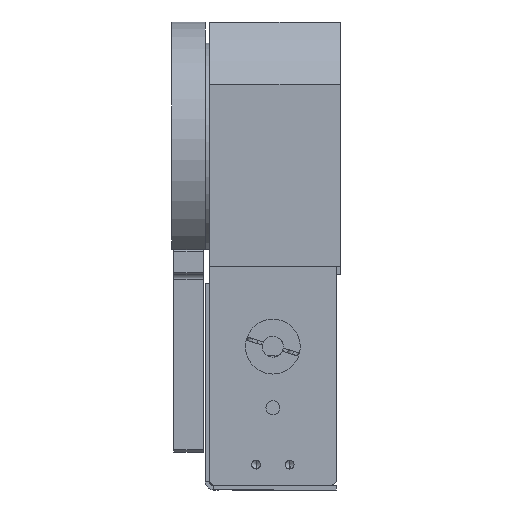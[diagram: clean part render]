
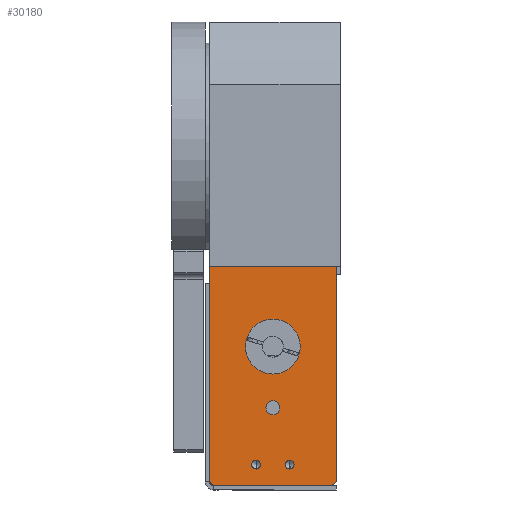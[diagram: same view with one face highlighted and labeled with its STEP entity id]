
A CAD part, left-side view. The second image highlights one B-rep face of the part: STEP entity #30180.
In plain terms, the highlighted planar face has unit normal (-1, 0, 0).
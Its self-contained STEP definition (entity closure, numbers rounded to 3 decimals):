
#99 = EDGE_CURVE ( 'NONE', #30562, #12137, #30193, .T. ) ;
#1097 = CARTESIAN_POINT ( 'NONE',  ( -40.848, 17.607, -80. ) ) ;
#1559 = CARTESIAN_POINT ( 'NONE',  ( -40.848, 3.607, -47. ) ) ;
#1664 = VECTOR ( 'NONE', #13310, 1000. ) ;
#2068 = VECTOR ( 'NONE', #11336, 1000. ) ;
#2203 = EDGE_CURVE ( 'NONE', #25479, #8233, #17320, .T. ) ;
#2484 = ORIENTED_EDGE ( 'NONE', *, *, #22748, .F. ) ;
#2626 = CARTESIAN_POINT ( 'NONE',  ( -40.848, 18.607, -79. ) ) ;
#3204 = CIRCLE ( 'NONE', #32817, 1.65 ) ;
#3315 = ORIENTED_EDGE ( 'NONE', *, *, #22793, .T. ) ;
#3342 = EDGE_CURVE ( 'NONE', #9764, #10073, #19787, .T. ) ;
#3397 = CIRCLE ( 'NONE', #16282, 6.5 ) ;
#4313 = DIRECTION ( 'NONE',  ( 0., 0., -1. ) ) ;
#4540 = DIRECTION ( 'NONE',  ( 0., -1., 0. ) ) ;
#5586 = CARTESIAN_POINT ( 'NONE',  ( -40.848, -10.393, -80. ) ) ;
#6243 = DIRECTION ( 'NONE',  ( 0., 1., 0. ) ) ;
#7108 = DIRECTION ( 'NONE',  ( 1., 0., 0. ) ) ;
#7303 = DIRECTION ( 'NONE',  ( 0., 0., -1. ) ) ;
#7694 = CARTESIAN_POINT ( 'NONE',  ( -40.848, -10.393, -80. ) ) ;
#7984 = DIRECTION ( 'NONE',  ( 1., 0., 0. ) ) ;
#8233 = VERTEX_POINT ( 'NONE', #29071 ) ;
#9571 = ORIENTED_EDGE ( 'NONE', *, *, #99, .T. ) ;
#9764 = VERTEX_POINT ( 'NONE', #7694 ) ;
#9799 = VERTEX_POINT ( 'NONE', #18981 ) ;
#9837 = CARTESIAN_POINT ( 'NONE',  ( -40.848, -11.393, -28. ) ) ;
#9858 = CIRCLE ( 'NONE', #33446, 1.65 ) ;
#10073 = VERTEX_POINT ( 'NONE', #1097 ) ;
#10269 = CARTESIAN_POINT ( 'NONE',  ( -40.848, -0.393, -76.025 ) ) ;
#10680 = FACE_OUTER_BOUND ( 'NONE', #12937, .T. ) ;
#10715 = ORIENTED_EDGE ( 'NONE', *, *, #3342, .F. ) ;
#10747 = VECTOR ( 'NONE', #17567, 1000. ) ;
#11077 = VECTOR ( 'NONE', #16513, 1000. ) ;
#11336 = DIRECTION ( 'NONE',  ( 0., -0.707, 0.707 ) ) ;
#11484 = AXIS2_PLACEMENT_3D ( 'NONE', #34886, #26519, #16283 ) ;
#11605 = CARTESIAN_POINT ( 'NONE',  ( -40.848, 7.607, -75. ) ) ;
#12087 = DIRECTION ( 'NONE',  ( 1., 0., 0. ) ) ;
#12137 = VERTEX_POINT ( 'NONE', #10269 ) ;
#12937 = EDGE_LOOP ( 'NONE', ( #10715, #3315, #2484, #15427, #22922, #22836 ) ) ;
#13300 = CARTESIAN_POINT ( 'NONE',  ( -40.848, 3.607, -61.5 ) ) ;
#13310 = DIRECTION ( 'NONE',  ( 0., -0.707, -0.707 ) ) ;
#13575 = CARTESIAN_POINT ( 'NONE',  ( -40.848, -11.393, -28. ) ) ;
#13678 = FACE_BOUND ( 'NONE', #30071, .T. ) ;
#13844 = CIRCLE ( 'NONE', #30550, 1.025 ) ;
#14367 = CARTESIAN_POINT ( 'NONE',  ( -40.848, -11.393, -79. ) ) ;
#14910 = EDGE_CURVE ( 'NONE', #8233, #25479, #19122, .T. ) ;
#15427 = ORIENTED_EDGE ( 'NONE', *, *, #31559, .F. ) ;
#16265 = ORIENTED_EDGE ( 'NONE', *, *, #29474, .T. ) ;
#16282 = AXIS2_PLACEMENT_3D ( 'NONE', #1559, #34441, #4313 ) ;
#16283 = DIRECTION ( 'NONE',  ( 0., 0., -1. ) ) ;
#16513 = DIRECTION ( 'NONE',  ( 0., 0., -1. ) ) ;
#16755 = VERTEX_POINT ( 'NONE', #2626 ) ;
#16811 = EDGE_LOOP ( 'NONE', ( #23528, #16265 ) ) ;
#16920 = CARTESIAN_POINT ( 'NONE',  ( -40.848, -11.393, -80. ) ) ;
#17036 = ORIENTED_EDGE ( 'NONE', *, *, #30239, .T. ) ;
#17089 = CARTESIAN_POINT ( 'NONE',  ( -40.848, 18.607, -80. ) ) ;
#17146 = DIRECTION ( 'NONE',  ( 0., 0., -1. ) ) ;
#17320 = CIRCLE ( 'NONE', #30288, 1.025 ) ;
#17567 = DIRECTION ( 'NONE',  ( 0., 0., 1. ) ) ;
#17910 = VERTEX_POINT ( 'NONE', #19769 ) ;
#18015 = LINE ( 'NONE', #26451, #1664 ) ;
#18077 = LINE ( 'NONE', #17089, #10747 ) ;
#18207 = ORIENTED_EDGE ( 'NONE', *, *, #32765, .T. ) ;
#18225 = CARTESIAN_POINT ( 'NONE',  ( -40.848, 3.607, -40.5 ) ) ;
#18693 = PLANE ( 'NONE',  #11484 ) ;
#18911 = DIRECTION ( 'NONE',  ( 0., 0., -1. ) ) ;
#18936 = DIRECTION ( 'NONE',  ( 0., 0., -1. ) ) ;
#18981 = CARTESIAN_POINT ( 'NONE',  ( -40.848, 3.607, -53.5 ) ) ;
#19024 = CARTESIAN_POINT ( 'NONE',  ( -40.848, 3.607, -61.5 ) ) ;
#19122 = CIRCLE ( 'NONE', #32388, 1.025 ) ;
#19270 = EDGE_CURVE ( 'NONE', #16755, #10073, #18015, .T. ) ;
#19769 = CARTESIAN_POINT ( 'NONE',  ( -40.848, 3.607, -59.85 ) ) ;
#19787 = LINE ( 'NONE', #16920, #20195 ) ;
#20128 = VERTEX_POINT ( 'NONE', #32240 ) ;
#20195 = VECTOR ( 'NONE', #6243, 1000. ) ;
#20445 = LINE ( 'NONE', #9837, #22134 ) ;
#20848 = CARTESIAN_POINT ( 'NONE',  ( -40.848, -0.393, -75. ) ) ;
#21131 = AXIS2_PLACEMENT_3D ( 'NONE', #23491, #7108, #31724 ) ;
#21637 = VERTEX_POINT ( 'NONE', #13575 ) ;
#22109 = EDGE_CURVE ( 'NONE', #26669, #9799, #3397, .T. ) ;
#22134 = VECTOR ( 'NONE', #4540, 1000. ) ;
#22235 = ORIENTED_EDGE ( 'NONE', *, *, #14910, .T. ) ;
#22748 = EDGE_CURVE ( 'NONE', #21637, #25389, #23896, .T. ) ;
#22793 = EDGE_CURVE ( 'NONE', #9764, #25389, #25610, .T. ) ;
#22836 = ORIENTED_EDGE ( 'NONE', *, *, #19270, .T. ) ;
#22922 = ORIENTED_EDGE ( 'NONE', *, *, #29208, .F. ) ;
#23433 = CARTESIAN_POINT ( 'NONE',  ( -40.848, -0.393, -75. ) ) ;
#23491 = CARTESIAN_POINT ( 'NONE',  ( -40.848, 3.607, -47. ) ) ;
#23528 = ORIENTED_EDGE ( 'NONE', *, *, #22109, .T. ) ;
#23689 = DIRECTION ( 'NONE',  ( 1., 0., 0. ) ) ;
#23896 = LINE ( 'NONE', #30413, #11077 ) ;
#25173 = CARTESIAN_POINT ( 'NONE',  ( -40.848, 7.607, -75. ) ) ;
#25210 = FACE_BOUND ( 'NONE', #31777, .T. ) ;
#25250 = CIRCLE ( 'NONE', #21131, 6.5 ) ;
#25289 = DIRECTION ( 'NONE',  ( 0., 0., -1. ) ) ;
#25389 = VERTEX_POINT ( 'NONE', #14367 ) ;
#25479 = VERTEX_POINT ( 'NONE', #25924 ) ;
#25610 = LINE ( 'NONE', #5586, #2068 ) ;
#25813 = DIRECTION ( 'NONE',  ( 0., 0., -1. ) ) ;
#25924 = CARTESIAN_POINT ( 'NONE',  ( -40.848, 7.607, -76.025 ) ) ;
#26451 = CARTESIAN_POINT ( 'NONE',  ( -40.848, 18.607, -79. ) ) ;
#26519 = DIRECTION ( 'NONE',  ( 1., 0., 0. ) ) ;
#26669 = VERTEX_POINT ( 'NONE', #18225 ) ;
#26809 = AXIS2_PLACEMENT_3D ( 'NONE', #23433, #12087, #25813 ) ;
#27664 = VERTEX_POINT ( 'NONE', #31718 ) ;
#29071 = CARTESIAN_POINT ( 'NONE',  ( -40.848, 7.607, -73.975 ) ) ;
#29208 = EDGE_CURVE ( 'NONE', #16755, #27664, #18077, .T. ) ;
#29250 = ORIENTED_EDGE ( 'NONE', *, *, #2203, .T. ) ;
#29474 = EDGE_CURVE ( 'NONE', #9799, #26669, #25250, .T. ) ;
#30071 = EDGE_LOOP ( 'NONE', ( #17036, #18207 ) ) ;
#30180 = ADVANCED_FACE ( 'NONE', ( #13678, #32472, #25210, #10680, #30296 ), #18693, .F. ) ;
#30193 = CIRCLE ( 'NONE', #26809, 1.025 ) ;
#30239 = EDGE_CURVE ( 'NONE', #20128, #17910, #9858, .T. ) ;
#30288 = AXIS2_PLACEMENT_3D ( 'NONE', #25173, #33302, #25289 ) ;
#30296 = FACE_BOUND ( 'NONE', #16811, .T. ) ;
#30413 = CARTESIAN_POINT ( 'NONE',  ( -40.848, -11.393, -80. ) ) ;
#30550 = AXIS2_PLACEMENT_3D ( 'NONE', #20848, #23689, #7303 ) ;
#30562 = VERTEX_POINT ( 'NONE', #34739 ) ;
#31559 = EDGE_CURVE ( 'NONE', #27664, #21637, #20445, .T. ) ;
#31718 = CARTESIAN_POINT ( 'NONE',  ( -40.848, 18.607, -28. ) ) ;
#31724 = DIRECTION ( 'NONE',  ( 0., 0., -1. ) ) ;
#31777 = EDGE_LOOP ( 'NONE', ( #34416, #9571 ) ) ;
#32240 = CARTESIAN_POINT ( 'NONE',  ( -40.848, 3.607, -63.15 ) ) ;
#32388 = AXIS2_PLACEMENT_3D ( 'NONE', #11605, #33464, #17146 ) ;
#32472 = FACE_BOUND ( 'NONE', #33970, .T. ) ;
#32752 = DIRECTION ( 'NONE',  ( 1., 0., 0. ) ) ;
#32765 = EDGE_CURVE ( 'NONE', #17910, #20128, #3204, .T. ) ;
#32817 = AXIS2_PLACEMENT_3D ( 'NONE', #13300, #32752, #18936 ) ;
#33302 = DIRECTION ( 'NONE',  ( 1., 0., 0. ) ) ;
#33446 = AXIS2_PLACEMENT_3D ( 'NONE', #19024, #7984, #18911 ) ;
#33464 = DIRECTION ( 'NONE',  ( 1., 0., 0. ) ) ;
#33970 = EDGE_LOOP ( 'NONE', ( #29250, #22235 ) ) ;
#34416 = ORIENTED_EDGE ( 'NONE', *, *, #35448, .T. ) ;
#34441 = DIRECTION ( 'NONE',  ( 1., 0., 0. ) ) ;
#34739 = CARTESIAN_POINT ( 'NONE',  ( -40.848, -0.393, -73.975 ) ) ;
#34886 = CARTESIAN_POINT ( 'NONE',  ( -40.848, 3.607, -54. ) ) ;
#35448 = EDGE_CURVE ( 'NONE', #12137, #30562, #13844, .T. ) ;
